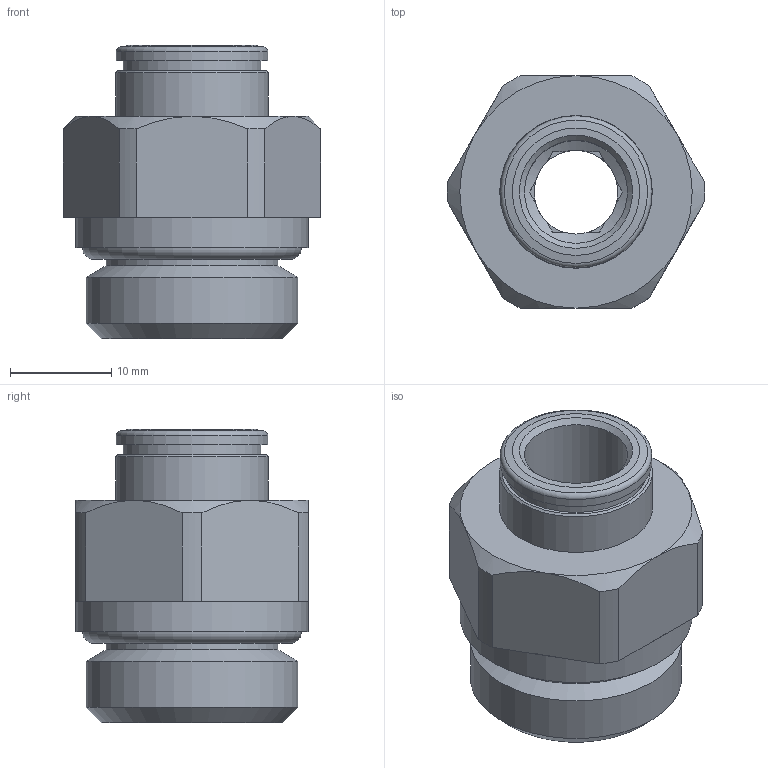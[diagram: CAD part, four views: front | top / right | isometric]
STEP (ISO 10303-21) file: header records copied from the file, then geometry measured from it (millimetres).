
FILE_DESCRIPTION(/* description */ (''),/* implementation_level */ '2;1');
FILE_NAME(/* name */ '200135ES_STX_01_10_1-2_16.04.15',/* time_stamp */ '2015-04-16T11:54:10+02:00',/* author */ (''),/* organization */ (''),/* preprocessor_version */ 'ST-DEVELOPER v14',/* originating_system */ 'HiCAD 2013 1802.3 Build 408',/* authorisation */ '');
FILE_SCHEMA (('AUTOMOTIVE_DESIGN { 1 0 10303 214 1 1 1 1 }'));
Length unit declared in the file: millimetre
Products named in the file (4): Root; 001_000X; R200135-ES-N1; DR10-N
Assembly tree (3 placements, depth 2):
  Root
    001_000X
    R200135-ES-N1
    DR10-N
Bounding box: 25.49 x 23 x 29 mm (x, y, z)
Volume: 7445.1 mm3; surface area: 4923.4 mm2
Topology: 3 solids, 3 shells, 79 faces, 185 edges, 115 vertices
Faces by surface type: plane 39, cylinder 18, cone 18, torus 4
Full cylindrical faces by diameter (mm): 8.3 x1, 10.2 x2, 12.3 x1, 13 x1, 13.6 x1, 13.7 x1, 15 x1, 15.1 x1, 17 x1, 20.955 x1, 23 x1
Entity records: 3681 total; most frequent: DIRECTION 412, CARTESIAN_POINT 339, PRESENTATION_STYLE_ASSIGNMENT 307, OVER_RIDING_STYLED_ITEM 304, COLOUR_RGB 300, DRAUGHTING_PRE_DEFINED_CURVE_FONT 296, CURVE_STYLE 296, ORIENTED_EDGE 296
